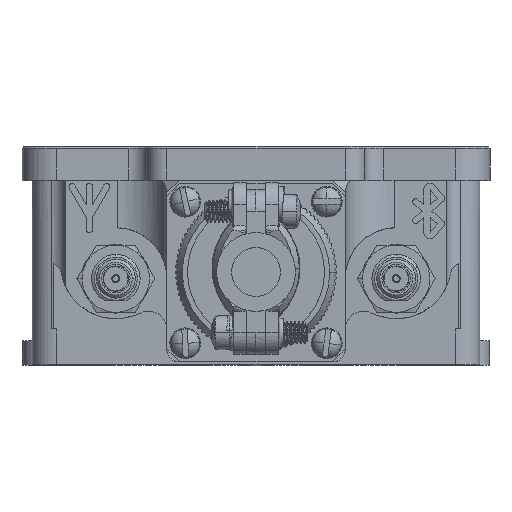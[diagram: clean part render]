
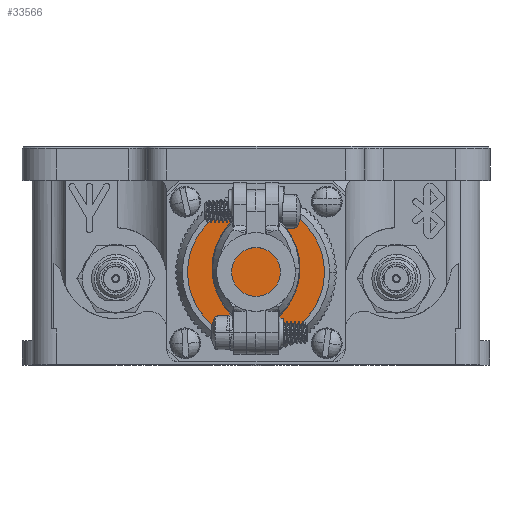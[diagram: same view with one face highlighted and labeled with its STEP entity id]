
A CAD part, top view. The second image highlights one B-rep face of the part: STEP entity #33566.
In plain terms, the highlighted planar face has unit normal (0, 0, 1).
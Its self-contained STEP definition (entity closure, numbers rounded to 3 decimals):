
#1649 = CARTESIAN_POINT ( 'NONE',  ( 3.111, 25.071, 80.346 ) ) ;
#1670 = EDGE_CURVE ( 'NONE', #84662, #69280, #10507, .T. ) ;
#1955 = VERTEX_POINT ( 'NONE', #68159 ) ;
#2164 = DIRECTION ( 'NONE',  ( -1., 0., 0. ) ) ;
#2708 = EDGE_CURVE ( 'NONE', #1955, #8340, #82086, .T. ) ;
#2939 = CARTESIAN_POINT ( 'NONE',  ( -3.112, 15., 80.346 ) ) ;
#4424 = ORIENTED_EDGE ( 'NONE', *, *, #75162, .T. ) ;
#5491 = ORIENTED_EDGE ( 'NONE', *, *, #86215, .T. ) ;
#5830 = DIRECTION ( 'NONE',  ( -1., 0., 0. ) ) ;
#5908 = DIRECTION ( 'NONE',  ( 0., -1., 0. ) ) ;
#8340 = VERTEX_POINT ( 'NONE', #77124 ) ;
#9188 = DIRECTION ( 'NONE',  ( 0., 1., 0. ) ) ;
#9941 = DIRECTION ( 'NONE',  ( 0., 0., -1. ) ) ;
#10507 = LINE ( 'NONE', #33682, #79773 ) ;
#10843 = DIRECTION ( 'NONE',  ( -1., 0., 0. ) ) ;
#11605 = CARTESIAN_POINT ( 'NONE',  ( 0., 15., 80.346 ) ) ;
#11664 = CIRCLE ( 'NONE', #47220, 7.48 ) ;
#12061 = ORIENTED_EDGE ( 'NONE', *, *, #34143, .F. ) ;
#12092 = VERTEX_POINT ( 'NONE', #28562 ) ;
#14138 = CIRCLE ( 'NONE', #92433, 10.541 ) ;
#15098 = CARTESIAN_POINT ( 'NONE',  ( 3.111, 15., 80.346 ) ) ;
#17265 = CARTESIAN_POINT ( 'NONE',  ( 0., 15., 80.346 ) ) ;
#18122 = ORIENTED_EDGE ( 'NONE', *, *, #72484, .T. ) ;
#18334 = DIRECTION ( 'NONE',  ( 0., 0., -1. ) ) ;
#18538 = ORIENTED_EDGE ( 'NONE', *, *, #35107, .F. ) ;
#18774 = EDGE_LOOP ( 'NONE', ( #20629, #12061, #19035, #5491 ) ) ;
#19035 = ORIENTED_EDGE ( 'NONE', *, *, #56152, .T. ) ;
#19076 = VECTOR ( 'NONE', #9188, 1000. ) ;
#20142 = CARTESIAN_POINT ( 'NONE',  ( -3.112, 15., 80.346 ) ) ;
#20629 = ORIENTED_EDGE ( 'NONE', *, *, #1670, .T. ) ;
#24190 = LINE ( 'NONE', #20142, #73414 ) ;
#24712 = CARTESIAN_POINT ( 'NONE',  ( -3.111, 8.198, 80.346 ) ) ;
#24941 = CARTESIAN_POINT ( 'NONE',  ( 3.111, 21.802, 80.346 ) ) ;
#25237 = DIRECTION ( 'NONE',  ( -1., 0., 0. ) ) ;
#25823 = VERTEX_POINT ( 'NONE', #74897 ) ;
#28562 = CARTESIAN_POINT ( 'NONE',  ( -3.112, 21.802, 80.346 ) ) ;
#29838 = ORIENTED_EDGE ( 'NONE', *, *, #2708, .F. ) ;
#30914 = EDGE_LOOP ( 'NONE', ( #18538, #29838 ) ) ;
#31039 = CIRCLE ( 'NONE', #92302, 10.541 ) ;
#31072 = DIRECTION ( 'NONE',  ( 0., 0., -1. ) ) ;
#33566 = ADVANCED_FACE ( 'NONE', ( #81959, #41766, #45143 ), #77991, .T. ) ;
#33682 = CARTESIAN_POINT ( 'NONE',  ( 3.111, 15., 80.346 ) ) ;
#34143 = EDGE_CURVE ( 'NONE', #12092, #69280, #11664, .T. ) ;
#35107 = EDGE_CURVE ( 'NONE', #8340, #1955, #39243, .T. ) ;
#37906 = AXIS2_PLACEMENT_3D ( 'NONE', #59909, #9941, #2164 ) ;
#39243 = CIRCLE ( 'NONE', #51698, 11.138 ) ;
#40294 = CARTESIAN_POINT ( 'NONE',  ( -3.111, 25.071, 80.346 ) ) ;
#40638 = VERTEX_POINT ( 'NONE', #24712 ) ;
#41766 = FACE_BOUND ( 'NONE', #18774, .T. ) ;
#41837 = VERTEX_POINT ( 'NONE', #60635 ) ;
#44825 = LINE ( 'NONE', #2939, #19076 ) ;
#45143 = FACE_OUTER_BOUND ( 'NONE', #30914, .T. ) ;
#45806 = CARTESIAN_POINT ( 'NONE',  ( 0., 15., 80.346 ) ) ;
#47183 = DIRECTION ( 'NONE',  ( 0., 0., -1. ) ) ;
#47220 = AXIS2_PLACEMENT_3D ( 'NONE', #68029, #18334, #25237 ) ;
#47486 = DIRECTION ( 'NONE',  ( -1., 0., 0. ) ) ;
#47536 = VERTEX_POINT ( 'NONE', #58509 ) ;
#47798 = ORIENTED_EDGE ( 'NONE', *, *, #77805, .T. ) ;
#48243 = DIRECTION ( 'NONE',  ( 0., 1., 0. ) ) ;
#48308 = ORIENTED_EDGE ( 'NONE', *, *, #78161, .F. ) ;
#51698 = AXIS2_PLACEMENT_3D ( 'NONE', #11605, #47183, #47486 ) ;
#54307 = CIRCLE ( 'NONE', #37906, 7.48 ) ;
#56152 = EDGE_CURVE ( 'NONE', #12092, #88756, #44825, .T. ) ;
#56777 = DIRECTION ( 'NONE',  ( -1., 0., 0. ) ) ;
#58458 = EDGE_LOOP ( 'NONE', ( #18122, #48308, #4424, #47798 ) ) ;
#58509 = CARTESIAN_POINT ( 'NONE',  ( -3.112, 4.929, 80.346 ) ) ;
#59909 = CARTESIAN_POINT ( 'NONE',  ( 0., 15., 80.346 ) ) ;
#60635 = CARTESIAN_POINT ( 'NONE',  ( 3.111, 4.929, 80.346 ) ) ;
#68029 = CARTESIAN_POINT ( 'NONE',  ( 0., 15., 80.346 ) ) ;
#68159 = CARTESIAN_POINT ( 'NONE',  ( -11.138, 15., 80.346 ) ) ;
#69280 = VERTEX_POINT ( 'NONE', #24941 ) ;
#72275 = AXIS2_PLACEMENT_3D ( 'NONE', #77068, #85168, #56777 ) ;
#72484 = EDGE_CURVE ( 'NONE', #47536, #40638, #24190, .T. ) ;
#72563 = DIRECTION ( 'NONE',  ( 0., -1., 0. ) ) ;
#73414 = VECTOR ( 'NONE', #48243, 1000. ) ;
#74897 = CARTESIAN_POINT ( 'NONE',  ( 3.111, 8.198, 80.346 ) ) ;
#75138 = DIRECTION ( 'NONE',  ( 0., 0., -1. ) ) ;
#75162 = EDGE_CURVE ( 'NONE', #25823, #41837, #90020, .T. ) ;
#77068 = CARTESIAN_POINT ( 'NONE',  ( 0., 15., 80.346 ) ) ;
#77124 = CARTESIAN_POINT ( 'NONE',  ( 11.138, 15., 80.346 ) ) ;
#77805 = EDGE_CURVE ( 'NONE', #41837, #47536, #31039, .T. ) ;
#77991 = PLANE ( 'NONE',  #72275 ) ;
#78161 = EDGE_CURVE ( 'NONE', #25823, #40638, #54307, .T. ) ;
#78458 = AXIS2_PLACEMENT_3D ( 'NONE', #84170, #92277, #5830 ) ;
#79773 = VECTOR ( 'NONE', #5908, 1000. ) ;
#81011 = DIRECTION ( 'NONE',  ( -1., 0., 0. ) ) ;
#81959 = FACE_BOUND ( 'NONE', #58458, .T. ) ;
#82086 = CIRCLE ( 'NONE', #78458, 11.138 ) ;
#84170 = CARTESIAN_POINT ( 'NONE',  ( 0., 15., 80.346 ) ) ;
#84662 = VERTEX_POINT ( 'NONE', #1649 ) ;
#85168 = DIRECTION ( 'NONE',  ( 0., 0., 1. ) ) ;
#86215 = EDGE_CURVE ( 'NONE', #88756, #84662, #14138, .T. ) ;
#87803 = VECTOR ( 'NONE', #72563, 1000. ) ;
#88756 = VERTEX_POINT ( 'NONE', #40294 ) ;
#90020 = LINE ( 'NONE', #15098, #87803 ) ;
#92277 = DIRECTION ( 'NONE',  ( 0., 0., -1. ) ) ;
#92302 = AXIS2_PLACEMENT_3D ( 'NONE', #45806, #75138, #10843 ) ;
#92433 = AXIS2_PLACEMENT_3D ( 'NONE', #17265, #31072, #81011 ) ;
